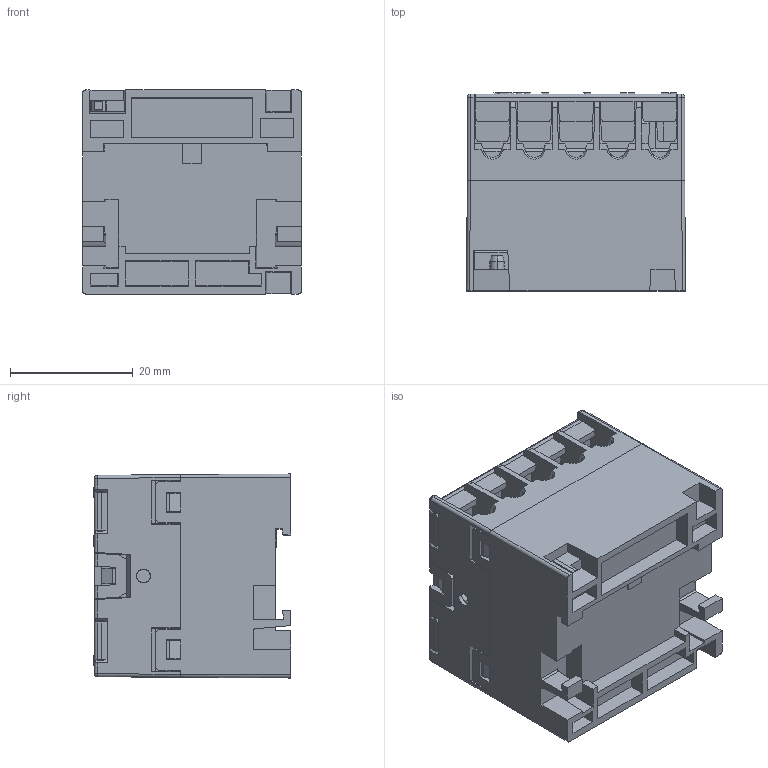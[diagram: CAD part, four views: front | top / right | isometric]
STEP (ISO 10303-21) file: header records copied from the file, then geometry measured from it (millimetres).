
FILE_DESCRIPTION (( 'STEP AP203' ), '1' );
FILE_NAME ('K0-05D01.STEP', '2013-06-26T06:12:10', ( 'edv' ), ( '' ), 'SwSTEP 2.0', 'SolidWorks 2013', '' );
FILE_SCHEMA (( 'CONFIG_CONTROL_DESIGN' ));
Products named in the file (4): 65494_Haken gerade; 65495_7 P1017-40; 65496_K0-05D01; K0-05D01
Assembly tree (3 placements, depth 2):
  K0-05D01
    65494_Haken gerade
    65495_7 P1017-40
    65496_K0-05D01
Bounding box: 35.59 x 32.2 x 33.19 mm (x, y, z)
Volume: 10992.9 mm3; surface area: 20313.9 mm2
Topology: 3 solids, 3 shells, 2131 faces, 6020 edges, 3935 vertices
Faces by surface type: plane 1485, bspline 258, cylinder 224, cone 140, torus 20, sphere 4
Entity records: 81737 total; most frequent: CARTESIAN_POINT 29101, ORIENTED_EDGE 12032, DIRECTION 9067, EDGE_CURVE 6016, VECTOR 4413, LINE 4413, VERTEX_POINT 3935, AXIS2_PLACEMENT_3D 2327
